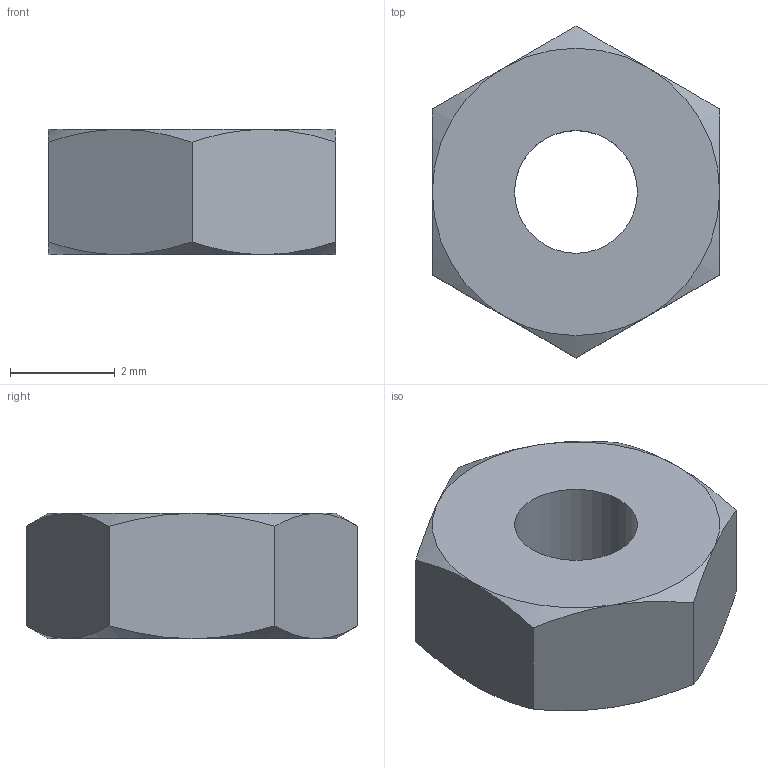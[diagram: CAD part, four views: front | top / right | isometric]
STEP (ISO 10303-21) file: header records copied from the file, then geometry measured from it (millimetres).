
FILE_DESCRIPTION(/* description */ ('STEP AP242 Edition 2','CAx-IF Rec.Pracs.---Representation and Presentation of Product Manufacturing Information (PMI)---4.0---2014-10-13','CAx-IF Rec.Pracs.---3D Tessellated Geometry---0.4---2014-09-14','2;1','CAx-IF Rec.Pracs.---User Defined Attributes---1.5---2016-08-15'),/* implementation_level */ '2;1');
FILE_NAME(/* name */ 'Main - M3 x 0.5mm Hex Nut (2)',/* time_stamp */ '2026-09-13T15:49:57Z',/* author */ (''),/* organization */ (''),/* preprocessor_version */ 'ST-DEVELOPER v20',/* originating_system */ 'ONSHAPE BY PTC INC, 1.220',/* authorisation */ ' ');
FILE_SCHEMA (('AP242_MANAGED_MODEL_BASED_3D_ENGINEERING_MIM_LF { 1 0 10303 442 3 1 4 }'));
Length unit declared in the file: metre
Products named in the file (1): M3 x 0.5mm Hex Nut
Bounding box: 5.5 x 6.35 x 2.4 mm (x, y, z)
Volume: 52.1 mm3; surface area: 104.7 mm2
Topology: 1 solids, 1 shells, 21 faces, 46 edges, 27 vertices
Faces by surface type: cone 12, plane 8, cylinder 1
Full cylindrical faces by diameter (mm): 2.35 x1
Entity records: 602 total; most frequent: CARTESIAN_POINT 164, ORIENTED_EDGE 88, DIRECTION 78, EDGE_CURVE 44, AXIS2_PLACEMENT_3D 36, VERTEX_POINT 26, B_SPLINE_CURVE_WITH_KNOTS 24, EDGE_LOOP 24
